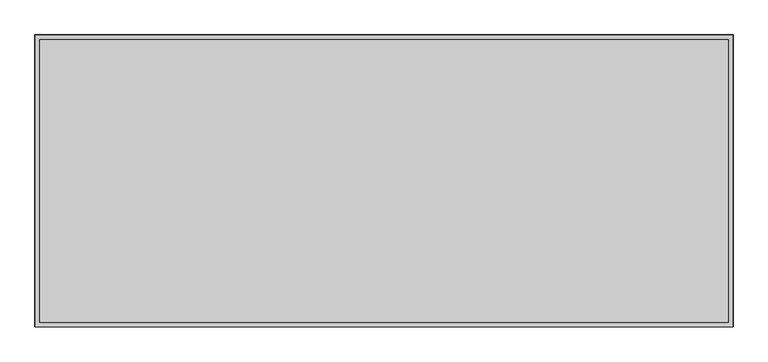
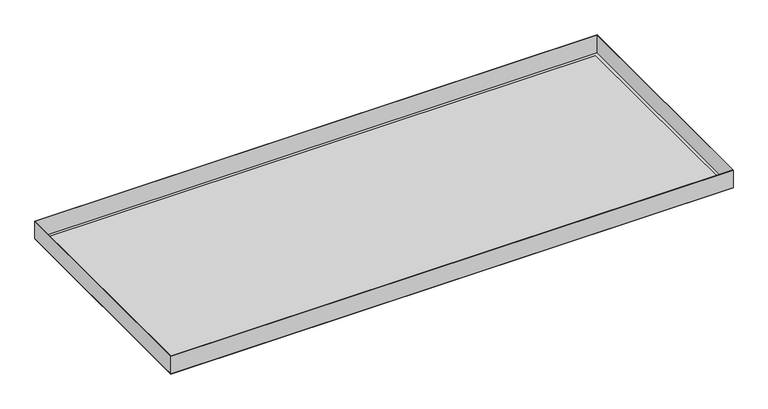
"""IFC4 building model written with IfcOpenShell, lengths in millimetres: proxy geometry, durlum_S7_panel : durlum_S7_panel_wall_width_cut."""

from ifc_helpers import new_model, si_unit, frame, origin, origin_with_axes, place, context, project, spatial, polyline, outline, extrude, source, transform, mapped, element, save


def generic_models_d1081ca2(model_context):
    return source(origin(), model_context, "Body", "SweptSolid", [
        extrude(outline(polyline([(596.0, 249.75), (596.0, -249.75), (-596.0, -249.75), (-596.0, 249.75), (596.0, 249.75)]), holes=[polyline([(595.4, 249.15), (-595.4, 249.15), (-595.4, -249.15), (595.4, -249.15), (595.4, 249.15)])]), frame((0.0, 0.0, 0.6), z_axis=(0.0, 0.0, 1.0), x_axis=(1.0, 0.0, 0.0)), (0.0, 0.0, 1.0), 39.4),
        extrude(outline(polyline([(588.0, 241.75), (588.0, -241.75), (-588.0, -241.75), (-588.0, 241.75), (588.0, 241.75)])), frame((0.0, 0.0, 0.6), z_axis=(0.0, 0.0, 1.0), x_axis=(1.0, 0.0, 0.0)), (0.0, 0.0, 1.0), 0.6),
        extrude(outline(polyline([(596.0, 249.75), (596.0, -249.75), (-596.0, -249.75), (-596.0, 249.75), (596.0, 249.75)]), holes=[polyline([(588.0, 241.75), (-588.0, 241.75), (-588.0, -241.75), (588.0, -241.75), (588.0, 241.75)])]), origin_with_axes(), (0.0, 0.0, 1.0), 0.6),
        extrude(outline(polyline([(588.0, 241.75), (588.0, -241.75), (-588.0, -241.75), (-588.0, 241.75), (588.0, 241.75)])), origin_with_axes(), (0.0, 0.0, 1.0), 0.6),
    ])


if __name__ == "__main__":
    model = new_model("IFC4")
    model_context = context("Model", 3, world=origin())
    ifc_project = project(units=[si_unit("LENGTHUNIT", "METRE", prefix="MILLI")], contexts=[model_context])
    site = spatial("IfcSite", under=ifc_project)
    building = spatial("IfcBuilding", under=site)
    placement = place(None, origin())
    generic_models_shape = generic_models_d1081ca2(model_context)
    element("IfcBuildingElementProxy", 1, Name="durlum_S7_panel : durlum_S7_panel_wall_width_cut", ObjectType="durlum_S7_panel : durlum_S7_panel_wall_width_cut", at=placement, inside=building, context=model_context, shape_type="MappedRepresentation", body=[
        mapped(generic_models_shape, transform((0.0, 0.0, 0.0), x_axis=(1.0, 0.0, 0.0), y_axis=(0.0, 1.0, 0.0), z_axis=(0.0, 0.0, 1.0))),
    ])
    save(model, "model.ifc")
